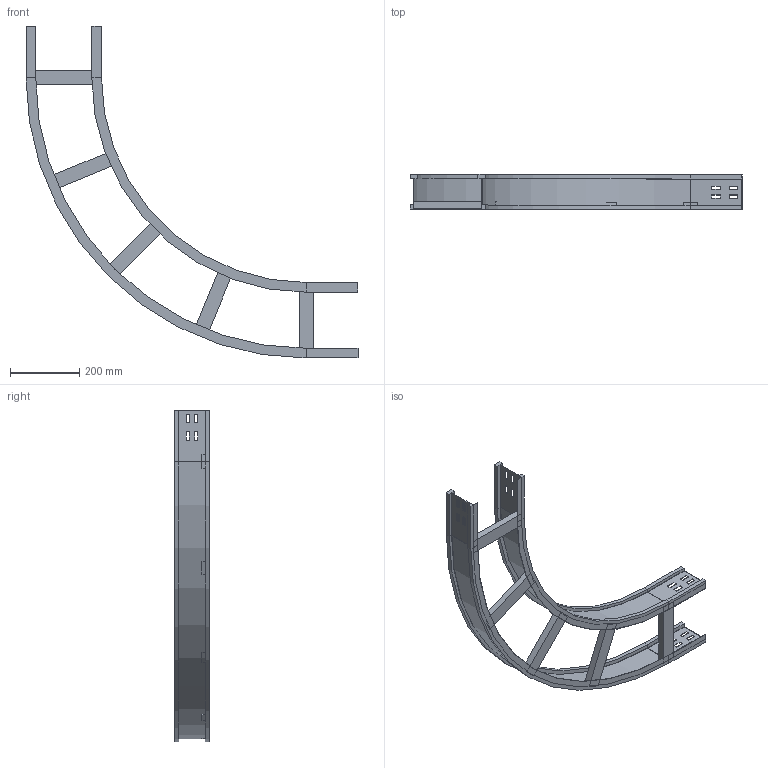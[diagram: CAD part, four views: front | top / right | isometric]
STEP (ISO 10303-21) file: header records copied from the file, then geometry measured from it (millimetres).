
FILE_DESCRIPTION (( 'STEP AP214' ), '1' );
FILE_NAME ('10S6D200.step', '2025-02-21T16:09:24', ( '' ), ( '' ), 'SwSTEP 2.0', 'SolidWorks 2023', '' );
FILE_SCHEMA (( 'AUTOMOTIVE_DESIGN' ));
Length unit declared in the file: millimetre
Products named in the file (4): TRAVERSINO_200; LONGH.INTERNO 90°_H100_R600; 10S6D200; LONGH.ESTERNO 90°_H100_R600+200
Assembly tree (7 placements, depth 2):
  10S6D200
    LONGH.INTERNO 90°_H100_R600
    LONGH.ESTERNO 90°_H100_R600+200
    TRAVERSINO_200  x5
Bounding box: 959 x 100 x 959 mm (x, y, z)
Volume: 2276680.7 mm3; surface area: 955175.1 mm2
Topology: 7 solids, 7 shells, 170 faces, 420 edges, 264 vertices
Faces by surface type: plane 158, cylinder 12
Entity records: 4493 total; most frequent: CARTESIAN_POINT 760, ORIENTED_EDGE 744, DIRECTION 708, EDGE_CURVE 372, VECTOR 348, LINE 348, VERTEX_POINT 232, AXIS2_PLACEMENT_3D 180
